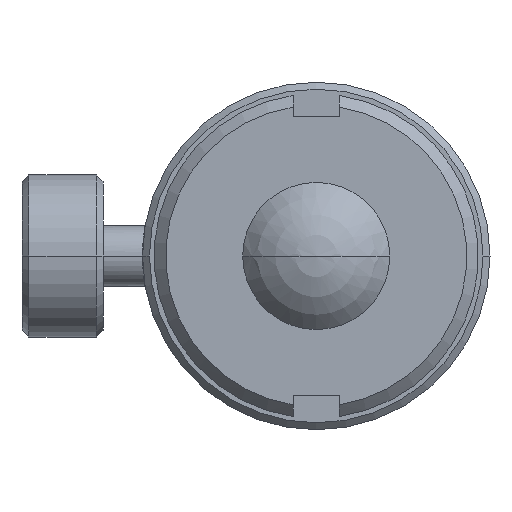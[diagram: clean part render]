
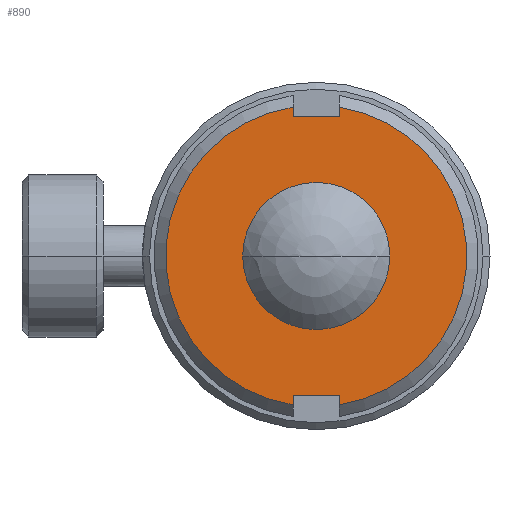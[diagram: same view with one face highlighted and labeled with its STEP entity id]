
A CAD part, left-side view. The second image highlights one B-rep face of the part: STEP entity #890.
In plain terms, the highlighted planar face has unit normal (-1, 0, 0).
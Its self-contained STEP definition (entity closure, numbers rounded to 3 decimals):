
#10=CARTESIAN_POINT('',(35.75,124.113,0.));
#20=DIRECTION('',(1.,0.,0.));
#30=DIRECTION('',(0.,-1.,0.));
#40=AXIS2_PLACEMENT_3D('',#10,#20,#30);
#50=PLANE('',#40);
#60=CARTESIAN_POINT('',(35.75,120.275,6.));
#70=DIRECTION('',(0.,0.,1.));
#80=VECTOR('',#70,1.);
#90=LINE('',#60,#80);
#100=CARTESIAN_POINT('',(35.75,120.275,6.));
#110=VERTEX_POINT('',#100);
#120=CARTESIAN_POINT('',(35.75,120.275,6.423));
#130=VERTEX_POINT('',#120);
#140=EDGE_CURVE('',#110,#130,#90,.T.);
#150=ORIENTED_EDGE('',*,*,#140,.T.);
#160=CARTESIAN_POINT('',(35.75,118.275,6.));
#170=DIRECTION('',(0.,1.,0.));
#180=VECTOR('',#170,1.);
#190=LINE('',#160,#180);
#200=CARTESIAN_POINT('',(35.75,118.275,6.));
#210=VERTEX_POINT('',#200);
#220=EDGE_CURVE('',#210,#110,#190,.T.);
#230=ORIENTED_EDGE('',*,*,#220,.T.);
#240=CARTESIAN_POINT('',(35.75,118.275,6.423));
#250=DIRECTION('',(0.,0.,-1.));
#260=VECTOR('',#250,1.);
#270=LINE('',#240,#260);
#280=CARTESIAN_POINT('',(35.75,118.275,6.423));
#290=VERTEX_POINT('',#280);
#300=EDGE_CURVE('',#290,#210,#270,.T.);
#310=ORIENTED_EDGE('',*,*,#300,.T.);
#320=CARTESIAN_POINT('',(35.75,119.275,0.));
#330=DIRECTION('',(-1.,-0.,0.));
#340=DIRECTION('',(0.,-0.154,-0.988));
#350=AXIS2_PLACEMENT_3D('',#320,#330,#340);
#360=CIRCLE('',#350,6.5);
#370=CARTESIAN_POINT('',(35.75,118.275,-6.423));
#380=VERTEX_POINT('',#370);
#390=EDGE_CURVE('',#380,#290,#360,.T.);
#400=ORIENTED_EDGE('',*,*,#390,.T.);
#410=CARTESIAN_POINT('',(35.75,118.275,-6.));
#420=DIRECTION('',(0.,0.,-1.));
#430=VECTOR('',#420,1.);
#440=LINE('',#410,#430);
#450=CARTESIAN_POINT('',(35.75,118.275,-6.));
#460=VERTEX_POINT('',#450);
#470=EDGE_CURVE('',#460,#380,#440,.T.);
#480=ORIENTED_EDGE('',*,*,#470,.T.);
#490=CARTESIAN_POINT('',(35.75,120.275,-6.));
#500=DIRECTION('',(0.,-1.,0.));
#510=VECTOR('',#500,1.);
#520=LINE('',#490,#510);
#530=CARTESIAN_POINT('',(35.75,120.275,-6.));
#540=VERTEX_POINT('',#530);
#550=EDGE_CURVE('',#540,#460,#520,.T.);
#560=ORIENTED_EDGE('',*,*,#550,.T.);
#570=CARTESIAN_POINT('',(35.75,120.275,-6.423));
#580=DIRECTION('',(0.,0.,1.));
#590=VECTOR('',#580,1.);
#600=LINE('',#570,#590);
#610=CARTESIAN_POINT('',(35.75,120.275,-6.423));
#620=VERTEX_POINT('',#610);
#630=EDGE_CURVE('',#620,#540,#600,.T.);
#640=ORIENTED_EDGE('',*,*,#630,.T.);
#650=CARTESIAN_POINT('',(35.75,119.275,0.));
#660=DIRECTION('',(-1.,0.,0.));
#670=DIRECTION('',(0.,0.154,0.988));
#680=AXIS2_PLACEMENT_3D('',#650,#660,#670);
#690=CIRCLE('',#680,6.5);
#700=EDGE_CURVE('',#130,#620,#690,.T.);
#710=ORIENTED_EDGE('',*,*,#700,.T.);
#720=EDGE_LOOP('',(#710,#640,#560,#480,#400,#310,#230,#150));
#730=FACE_OUTER_BOUND('',#720,.T.);
#740=CARTESIAN_POINT('',(35.75,119.275,0.));
#750=DIRECTION('',(1.,0.,0.));
#760=DIRECTION('',(0.,-1.,0.));
#770=AXIS2_PLACEMENT_3D('',#740,#750,#760);
#780=CIRCLE('',#770,3.175);
#790=CARTESIAN_POINT('',(35.75,122.45,0.));
#800=VERTEX_POINT('',#790);
#810=CARTESIAN_POINT('',(35.75,116.1,0.));
#820=VERTEX_POINT('',#810);
#830=EDGE_CURVE('',#800,#820,#780,.T.);
#840=ORIENTED_EDGE('',*,*,#830,.T.);
#850=EDGE_CURVE('',#820,#800,#780,.T.);
#860=ORIENTED_EDGE('',*,*,#850,.T.);
#870=EDGE_LOOP('',(#860,#840));
#880=FACE_BOUND('',#870,.T.);
#890=ADVANCED_FACE('',(#730,#880),#50,.F.);
